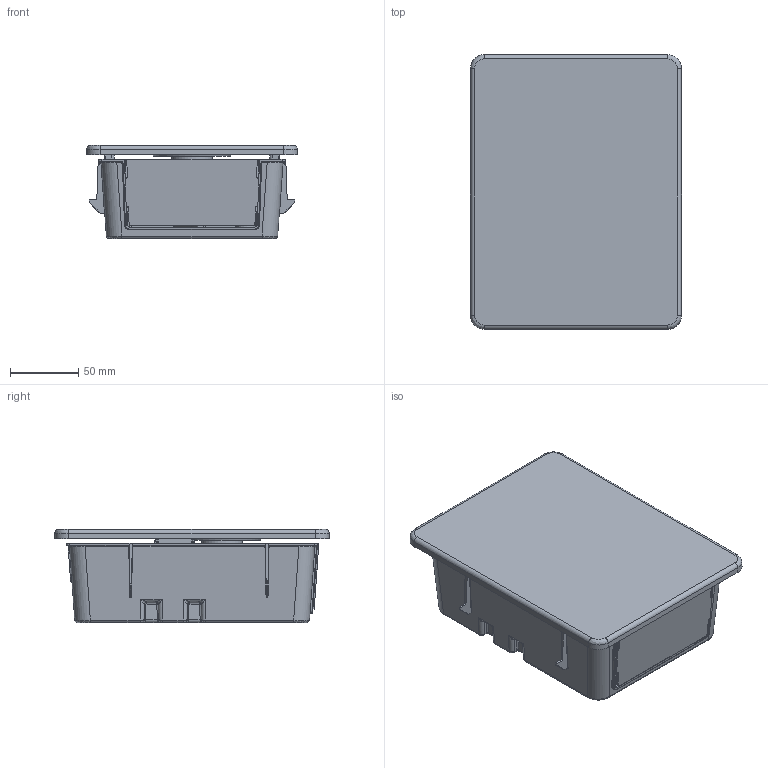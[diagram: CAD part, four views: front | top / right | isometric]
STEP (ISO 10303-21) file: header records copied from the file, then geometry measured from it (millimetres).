
FILE_DESCRIPTION(('STEP AP203'), '1');
FILE_NAME('ÂÐ.493111.004.000-VT.ICBOX.4', '2025-11-25T10:27:31', ('verevichevva'), ('Vesta'), 'C3D Converter', 'C3D Toolkit', '');
FILE_SCHEMA(('CONFIG_CONTROL_DESIGN'));
Length unit declared in the file: millimetre
Products named in the file (1): ВР.493111.004.000
Bounding box: 154.74 x 201.24 x 68.3 mm (x, y, z)
Volume: 471527.5 mm3; surface area: 215583.4 mm2
Topology: 1 solids, 1 shells, 2618 faces, 6777 edges, 4060 vertices
Faces by surface type: cylinder 807, plane 768, bspline 672, torus 231, cone 104, sphere 36
Full cylindrical faces by diameter (mm): 10 x1, 22.5 x2, 26 x3, 26.1 x2, 30 x2, 31 x1, 31.5 x1
Entity records: 154378 total; most frequent: CARTESIAN_POINT 98140, ORIENTED_EDGE 13196, DIRECTION 9357, EDGE_CURVE 6598, VERTEX_POINT 4057, AXIS2_PLACEMENT_3D 3491, EDGE_LOOP 2717, FACE_BOUND 2661
